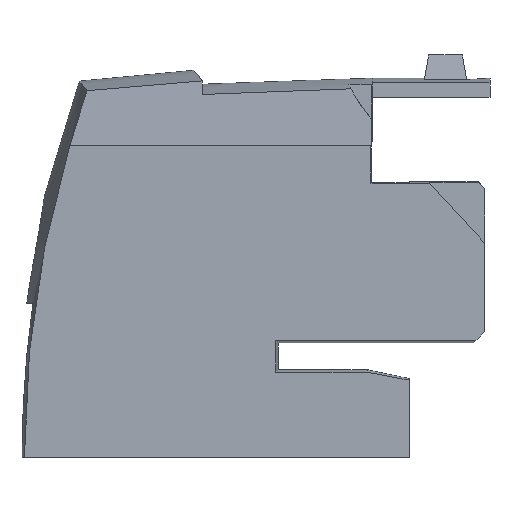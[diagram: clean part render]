
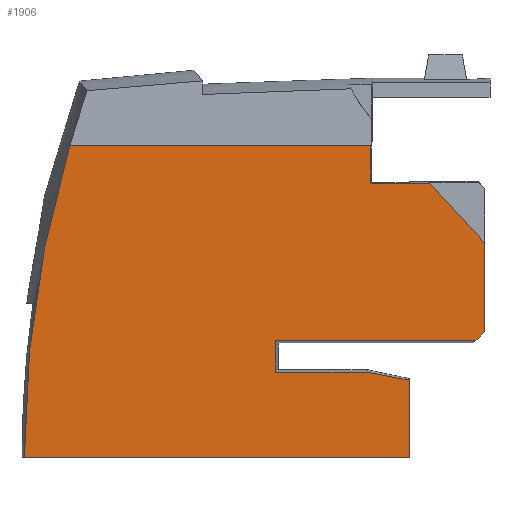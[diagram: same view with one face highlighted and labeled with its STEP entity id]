
A CAD part, left-side view. The second image highlights one B-rep face of the part: STEP entity #1906.
In plain terms, the highlighted planar face has unit normal (-1, 0, 0).
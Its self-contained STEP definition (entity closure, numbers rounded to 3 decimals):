
#332=DIRECTION('',(0.,1.,0.));
#333=VECTOR('',#332,53.816);
#334=CARTESIAN_POINT('',(-72.05,82.865,23.427));
#335=LINE('',#334,#333);
#336=DIRECTION('',(0.,0.,1.));
#337=VECTOR('',#336,6.743);
#338=CARTESIAN_POINT('',(-72.05,82.865,16.685));
#339=LINE('',#338,#337);
#340=DIRECTION('',(0.,1.,0.));
#341=VECTOR('',#340,10.483);
#342=CARTESIAN_POINT('',(-72.05,72.383,16.685));
#343=LINE('',#342,#341);
#344=DIRECTION('',(0.,0.677,0.736));
#345=VECTOR('',#344,14.53);
#346=CARTESIAN_POINT('',(-72.05,62.55,5.987));
#347=LINE('',#346,#345);
#348=DIRECTION('',(0.,-0.707,0.707));
#349=VECTOR('',#348,2.205);
#350=CARTESIAN_POINT('',(-72.05,64.109,-11.409));
#351=LINE('',#350,#349);
#352=DIRECTION('',(0.,-1.,0.));
#353=VECTOR('',#352,35.782);
#354=CARTESIAN_POINT('',(-72.05,99.891,-11.409));
#355=LINE('',#354,#353);
#356=DIRECTION('',(0.,0.,1.));
#357=VECTOR('',#356,5.682);
#358=CARTESIAN_POINT('',(-72.05,99.891,-17.091));
#359=LINE('',#358,#357);
#360=DIRECTION('',(0.,1.,0.));
#361=VECTOR('',#360,16.341);
#362=CARTESIAN_POINT('',(-72.05,83.55,-17.091));
#363=LINE('',#362,#361);
#364=DIRECTION('',(0.,0.983,0.186));
#365=VECTOR('',#364,7.634);
#366=CARTESIAN_POINT('',(-72.05,76.05,-18.512));
#367=LINE('',#366,#365);
#368=DIRECTION('',(0.,-1.,0.));
#369=VECTOR('',#368,68.75);
#370=CARTESIAN_POINT('',(-72.05,144.8,-32.25));
#371=LINE('',#370,#369);
#372=CARTESIAN_POINT('',(-72.05,-50.17,-32.25));
#373=DIRECTION('',(-1.,0.,0.));
#374=DIRECTION('',(0.,0.958,0.286));
#375=AXIS2_PLACEMENT_3D('',#372,#373,#374);
#405=DIRECTION('',(0.,0.,-1.));
#406=VECTOR('',#405,15.837);
#407=CARTESIAN_POINT('',(-72.05,62.55,5.987));
#408=LINE('',#407,#406);
#559=DIRECTION('',(0.,0.,-1.));
#560=VECTOR('',#559,13.738);
#561=CARTESIAN_POINT('',(-72.05,76.05,-18.512));
#562=LINE('',#561,#560);
#1199=CARTESIAN_POINT('',(-72.05,144.8,-32.25));
#1200=VERTEX_POINT('',#1199);
#1201=CARTESIAN_POINT('',(-72.05,136.681,23.427));
#1202=VERTEX_POINT('',#1201);
#1248=CARTESIAN_POINT('',(-72.05,82.865,23.427));
#1249=VERTEX_POINT('',#1248);
#1250=CARTESIAN_POINT('',(-72.05,76.05,-32.25));
#1251=VERTEX_POINT('',#1250);
#1252=CARTESIAN_POINT('',(-72.05,76.05,-18.512));
#1253=VERTEX_POINT('',#1252);
#1254=CARTESIAN_POINT('',(-72.05,83.55,-17.091));
#1255=VERTEX_POINT('',#1254);
#1256=CARTESIAN_POINT('',(-72.05,99.891,-17.091));
#1257=VERTEX_POINT('',#1256);
#1258=CARTESIAN_POINT('',(-72.05,99.891,-11.409));
#1259=VERTEX_POINT('',#1258);
#1260=CARTESIAN_POINT('',(-72.05,64.109,-11.409));
#1261=VERTEX_POINT('',#1260);
#1262=CARTESIAN_POINT('',(-72.05,62.55,-9.85));
#1263=VERTEX_POINT('',#1262);
#1264=CARTESIAN_POINT('',(-72.05,62.55,5.987));
#1265=VERTEX_POINT('',#1264);
#1266=CARTESIAN_POINT('',(-72.05,72.383,16.685));
#1267=VERTEX_POINT('',#1266);
#1268=CARTESIAN_POINT('',(-72.05,82.865,16.685));
#1269=VERTEX_POINT('',#1268);
#1875=CARTESIAN_POINT('',(-72.05,123.213,34.028));
#1876=DIRECTION('',(-1.,0.,0.));
#1877=DIRECTION('',(0.,0.,-1.));
#1878=AXIS2_PLACEMENT_3D('',#1875,#1876,#1877);
#1879=PLANE('',#1878);
#1880=ORIENTED_EDGE('',*,*,#1842,.F.);
#1881=ORIENTED_EDGE('',*,*,#1594,.F.);
#1883=ORIENTED_EDGE('',*,*,#1882,.F.);
#1885=ORIENTED_EDGE('',*,*,#1884,.F.);
#1887=ORIENTED_EDGE('',*,*,#1886,.T.);
#1889=ORIENTED_EDGE('',*,*,#1888,.F.);
#1891=ORIENTED_EDGE('',*,*,#1890,.F.);
#1893=ORIENTED_EDGE('',*,*,#1892,.F.);
#1895=ORIENTED_EDGE('',*,*,#1894,.F.);
#1897=ORIENTED_EDGE('',*,*,#1896,.F.);
#1899=ORIENTED_EDGE('',*,*,#1898,.T.);
#1901=ORIENTED_EDGE('',*,*,#1900,.F.);
#1903=ORIENTED_EDGE('',*,*,#1902,.F.);
#1904=EDGE_LOOP('',(#1880,#1881,#1883,#1885,#1887,#1889,#1891,#1893,#1895,#1897,
#1899,#1901,#1903));
#1905=FACE_OUTER_BOUND('',#1904,.F.);
#1906=ADVANCED_FACE('',(#1905),#1879,.T.);
#376=CIRCLE('',#375,194.97);
#1594=EDGE_CURVE('',#1269,#1249,#339,.T.);
#1842=EDGE_CURVE('',#1249,#1202,#335,.T.);
#1882=EDGE_CURVE('',#1267,#1269,#343,.T.);
#1884=EDGE_CURVE('',#1265,#1267,#347,.T.);
#1886=EDGE_CURVE('',#1265,#1263,#408,.T.);
#1888=EDGE_CURVE('',#1261,#1263,#351,.T.);
#1890=EDGE_CURVE('',#1259,#1261,#355,.T.);
#1892=EDGE_CURVE('',#1257,#1259,#359,.T.);
#1894=EDGE_CURVE('',#1255,#1257,#363,.T.);
#1896=EDGE_CURVE('',#1253,#1255,#367,.T.);
#1898=EDGE_CURVE('',#1253,#1251,#562,.T.);
#1900=EDGE_CURVE('',#1200,#1251,#371,.T.);
#1902=EDGE_CURVE('',#1202,#1200,#376,.T.);
